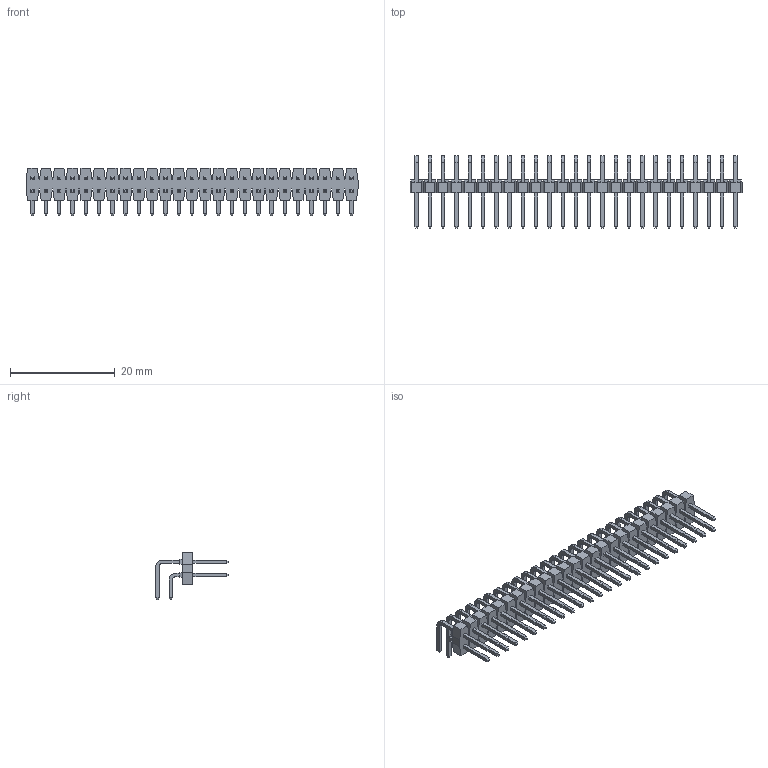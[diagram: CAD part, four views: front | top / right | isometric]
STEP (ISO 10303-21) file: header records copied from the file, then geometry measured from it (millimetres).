
FILE_DESCRIPTION((''),'2;1');
FILE_NAME('901220785','2020-07-20T',('gga'),(''),'PRO/ENGINEER BY PARAMETRIC TECHNOLOGY CORPORATION, 2016010','PRO/ENGINEER BY PARAMETRIC TECHNOLOGY CORPORATION, 2016010','');
FILE_SCHEMA(('CONFIG_CONTROL_DESIGN'));
Length unit declared in the file: millimetre
Products named in the file (1): 901220785
Bounding box: 63.5 x 13.87 x 9.05 mm (x, y, z)
Volume: 1047.9 mm3; surface area: 3495.6 mm2
Topology: 1 solids, 1 shells, 1802 faces, 4500 edges, 2900 vertices
Faces by surface type: plane 1702, cylinder 100
Entity records: 52221 total; most frequent: CARTESIAN_POINT 9103, ORIENTED_EDGE 8800, DIRECTION 8406, EDGE_CURVE 4400, VECTOR 4200, LINE 4200, VERTEX_POINT 2800, AXIS2_PLACEMENT_3D 2103
